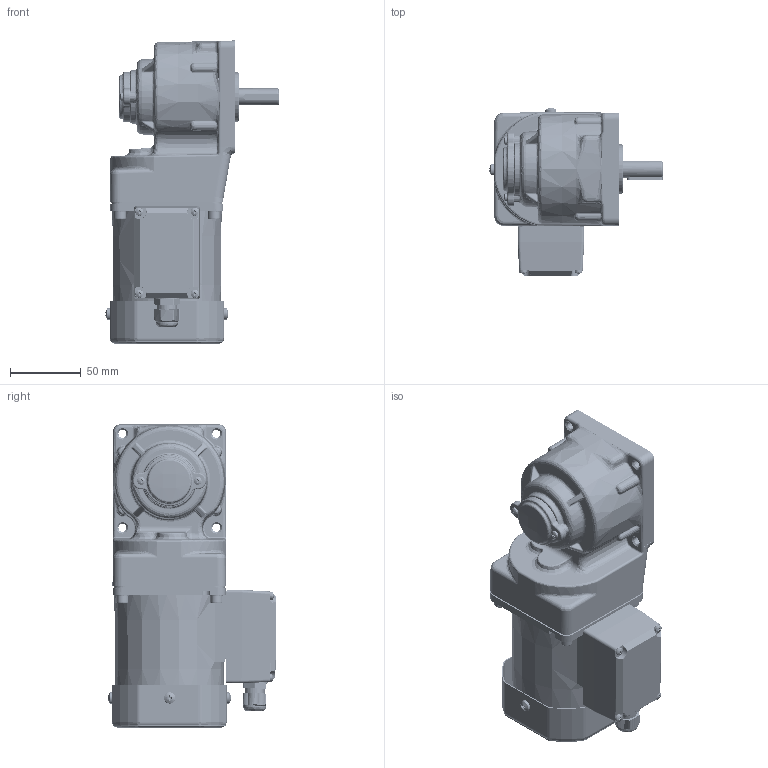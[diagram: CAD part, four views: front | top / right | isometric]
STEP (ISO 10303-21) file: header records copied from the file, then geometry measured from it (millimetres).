
FILE_DESCRIPTION (( 'STEP AP203' ), '1' );
FILE_NAME ('4IK40GN-CFT(4GN3RT-180RT)ÐÂ.STEP', '2022-02-21T08:19:05', ( 'PC' ), ( 'Microsoft' ), 'SwSTEP 2.0', 'SolidWorks 2014', '' );
FILE_SCHEMA (( 'CONFIG_CONTROL_DESIGN' ));
Length unit declared in the file: millimetre
Products named in the file (18): 70TSJXHG(2)^80JXH; 80壔裔; 80JXH; 80綴傷裔; 80GYJK; hexagon socket head cap screws gb_GB_FASTENER_SCREWS_HSHCS M4X12-N; 80FZ; cross recessed pan head screws gb_GB_CROSS_SCREWS_TYPE1 M3X6-6  H type-N; M4; 80TSJXHJK; PRT0035^ASM0002_ASM_ASM_ASM0001_ASM_ASM_4IK25GN-CT-4GN3-180RC_ASM_ASM_4ik25gn-ct-4gn3-180rt_asm(2)_8; TSJXH^70TSJXHG(2)_80JXH; 80眻褒眊裔; 4IK40GN-CFT(4GN3RT-180RT)陔; M14SJQ^70TSJXHG(2)_80JXH; zd-4gn1000rc-504-001-20211209（PROE导出的版本）; M3^70TSJXHG(2)_80JXH; 80妗陑怀堤粣
Assembly tree (30 placements, depth 5):
  4IK40GN-CFT(4GN3RT-180RT)陔
    80眻褒眊裔
    zd-4gn1000rc-504-001-20211209（PROE导出的版本）
    80妗陑怀堤粣
    80壔裔
    80綴傷裔
    hexagon socket head cap screws gb_GB_FASTENER_SCREWS_HSHCS M4X12-N  x4
    cross recessed pan head screws gb_GB_CROSS_SCREWS_TYPE1 M3X6-6  H type-N  x2
    80GYJK
      80TSJXHJK
      80JXH
        70TSJXHG(2)^80JXH
          TSJXH^70TSJXHG(2)_80JXH
          M14SJQ^70TSJXHG(2)_80JXH
          M3^70TSJXHG(2)_80JXH  x4
    80FZ
    M4  x4
    PRT0035^ASM0002_ASM_ASM_ASM0001_ASM_ASM_4IK25GN-CT-4GN3-180RC_ASM_ASM_4ik25gn-ct-4gn3-180rt_asm(2)_8  x4
Bounding box: 122.52 x 118.96 x 214.47 mm (x, y, z)
Volume: 817782.5 mm3; surface area: 199856.6 mm2
Topology: 27 solids, 29 shells, 3982 faces, 9223 edges, 5265 vertices
Faces by surface type: cone 1485, cylinder 1151, plane 816, bspline 520, torus 8, sphere 2
Entity records: 103141 total; most frequent: CARTESIAN_POINT 52178, ORIENTED_EDGE 10920, DIRECTION 8979, EDGE_CURVE 5460, VERTEX_POINT 3306, AXIS2_PLACEMENT_3D 3286, EDGE_LOOP 2496, VECTOR 2407
